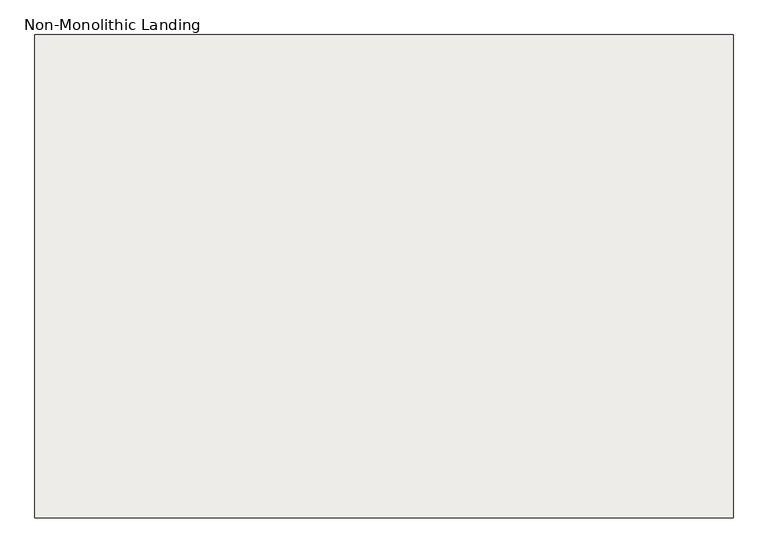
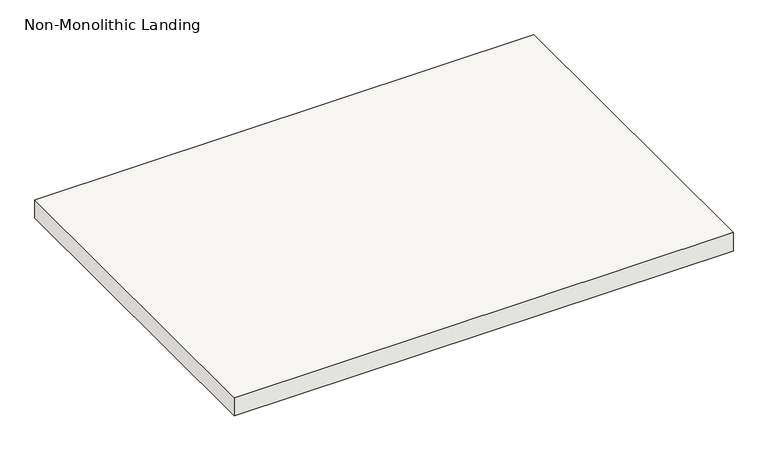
"""IFC4 building model written with IfcOpenShell, lengths in millimetres: slab geometry, Non-Monolithic Landing."""

import ifcopenshell
import ifcopenshell.guid

model = None  # the IFC model being written
_history = None  # IfcOwnerHistory: only IFC2X3 demands one
_inside = {}  # id of a spatial element -> (the spatial element, [elements in it])
_under = {}  # id of a project, library or spatial element -> (it, [spatial elements below it])
_declared = {}  # id of a project -> (the project, [libraries it declares])
_typed = {}  # id of a type object -> (the type object, [elements of that type])
_made_of = {}  # id of a material, layer set ... -> (it, [elements and type objects made of it])


def new_model(schema):
    """Start an empty IFC model of exactly this schema.

    Asked for "IFC4X3", IfcOpenShell would pick the latest addendum, in which some entities
    have other attributes; the version numbers below select the first issue.
    IFC2X3 requires an IfcOwnerHistory on every rooted entity: one is made here for all.
    """
    global model, _history
    if schema == "IFC4X3":
        model = ifcopenshell.file(schema_version=(4, 3, 0, 0))
    else:
        model = ifcopenshell.file(schema=schema)
    _inside.clear()
    _under.clear()
    _declared.clear()
    _typed.clear()
    _made_of.clear()
    _history = None
    if model.schema == "IFC2X3":
        org = make("IfcOrganization", Name="unknown")
        user = make(
            "IfcPersonAndOrganization",
            ThePerson=make("IfcPerson", FamilyName="unknown"),
            TheOrganization=org,
        )
        app = make(
            "IfcApplication",
            ApplicationDeveloper=org,
            Version="unknown",
            ApplicationFullName="unknown",
            ApplicationIdentifier="unknown",
        )
        _history = make(
            "IfcOwnerHistory",
            OwningUser=user,
            OwningApplication=app,
            ChangeAction="ADDED",
            CreationDate=0,
        )
    return model


def make(cls, **values):
    """One entity of the class cls with the attributes given. An attribute that is None is left unset."""
    return model.create_entity(
        cls, **{name: value for name, value in values.items() if value is not None}
    )


def rooted(cls, **values):
    """An entity with a GlobalId (a new one), such as an element, a storey or a relation."""
    return make(cls, GlobalId=ifcopenshell.guid.new(), OwnerHistory=_history, **values)


def si_unit(unit_type, name, prefix=None):
    """IfcSIUnit, for example si_unit("LENGTHUNIT", "METRE", prefix="MILLI")."""
    return make("IfcSIUnit", UnitType=unit_type, Prefix=prefix, Name=name)


def assignment(units):
    """IfcUnitAssignment: the units of a project."""
    return None if units is None else make("IfcUnitAssignment", Units=units)


def point(xyz):
    """IfcCartesianPoint."""
    return None if xyz is None else make("IfcCartesianPoint", Coordinates=xyz)


def direction(xyz):
    """IfcDirection."""
    return None if xyz is None else make("IfcDirection", DirectionRatios=xyz)


def frame(location, z_axis=None, x_axis=None):
    """IfcAxis2Placement3D, a coordinate frame: its origin and axes. An axis left out is left unset."""
    return make(
        "IfcAxis2Placement3D",
        Location=point(location),
        Axis=direction(z_axis),
        RefDirection=direction(x_axis),
    )


def origin():
    """The frame at (0, 0, 0) with its axes left unset."""
    return frame((0.0, 0.0, 0.0))


def place(relative_to, where):
    """IfcLocalPlacement: puts the frame where relative to a parent placement (None: the world)."""
    return make(
        "IfcLocalPlacement", PlacementRelTo=relative_to, RelativePlacement=where
    )


def context(
    kind, dimensions, precision=None, world=None, true_north=None, identifier=None
):
    """IfcGeometricRepresentationContext, for example the 3D "Model" context."""
    return make(
        "IfcGeometricRepresentationContext",
        ContextIdentifier=identifier,
        ContextType=kind,
        CoordinateSpaceDimension=dimensions,
        Precision=precision,
        WorldCoordinateSystem=world,
        TrueNorth=true_north,
    )


def project(units=None, contexts=None):
    """IfcProject with its units and contexts."""
    return rooted(
        "IfcProject",
        Name="project",
        RepresentationContexts=contexts,
        UnitsInContext=assignment(units),
    )


def spatial(cls, under=None, at=None, **own):
    """A site, building, storey or space (cls), placed at a placement, below another one or the project."""
    s = rooted(cls, ObjectPlacement=at, **own)
    if under is not None:
        _under.setdefault(under.id(), (under, []))[1].append(s)
    return s


def polyline(points):
    """IfcPolyline through the points."""
    return make("IfcPolyline", Points=[point(p) for p in points])


def outline(outer, holes=None, kind="AREA"):
    """IfcArbitraryClosedProfileDef: a profile drawn as a closed curve; with holes, ...WithVoids."""
    if holes is None:
        return make("IfcArbitraryClosedProfileDef", ProfileType=kind, OuterCurve=outer)
    return make(
        "IfcArbitraryProfileDefWithVoids",
        ProfileType=kind,
        OuterCurve=outer,
        InnerCurves=holes,
    )


def extrude(swept, where, along, depth):
    """IfcExtrudedAreaSolid: the profile swept, set in the frame where, extruded along a direction by depth."""
    return make(
        "IfcExtrudedAreaSolid",
        SweptArea=swept,
        Position=where,
        ExtrudedDirection=direction(along),
        Depth=depth,
    )


def shape(context_of_items, identifier, shape_type, items):
    """IfcShapeRepresentation: the items that make up one representation, for example the "Body"."""
    return make(
        "IfcShapeRepresentation",
        ContextOfItems=context_of_items,
        RepresentationIdentifier=identifier,
        RepresentationType=shape_type,
        Items=items,
    )


def source(mapping_origin, context_of_items, identifier, shape_type, items):
    """IfcRepresentationMap: a shape defined once, which mapped items show again and again."""
    return make(
        "IfcRepresentationMap",
        MappingOrigin=mapping_origin,
        MappedRepresentation=shape(context_of_items, identifier, shape_type, items),
    )


def transform(
    local_origin,
    x_axis=None,
    y_axis=None,
    z_axis=None,
    scale=None,
    scale2=None,
    scale3=None,
    uniform=True,
):
    """IfcCartesianTransformationOperator3D, or its non-uniform kind. x_axis, y_axis, z_axis: its Axis1, 2, 3."""
    if uniform:
        return make(
            "IfcCartesianTransformationOperator3D",
            Axis1=direction(x_axis),
            Axis2=direction(y_axis),
            LocalOrigin=point(local_origin),
            Scale=scale,
            Axis3=direction(z_axis),
        )
    return make(
        "IfcCartesianTransformationOperator3DnonUniform",
        Axis1=direction(x_axis),
        Axis2=direction(y_axis),
        LocalOrigin=point(local_origin),
        Scale=scale,
        Axis3=direction(z_axis),
        Scale2=scale2,
        Scale3=scale3,
    )


def mapped(mapping_source, mapping_target):
    """IfcMappedItem: shows the shape of a source again, moved by a transform."""
    return make(
        "IfcMappedItem", MappingSource=mapping_source, MappingTarget=mapping_target
    )


def made_of(thing, what):
    """Note that an element or type object is made of a material, layer set ...; save() writes the relation."""
    if what is not None:
        _made_of.setdefault(what.id(), (what, []))[1].append(thing)
    return thing


def element(
    cls,
    number,
    at=None,
    inside=None,
    cuts=None,
    type_object=None,
    material=None,
    context=None,
    identifier="Body",
    shape_type=None,
    held_by="IfcProductDefinitionShape",
    body=None,
    shapes=None,
    **own,
):
    """One element of the class cls, such as IfcWall. Its Tag is "e" and its number.

    at: its placement. inside: the storey or other place that contains it. cuts: it is an
    opening in that element (IfcRelVoidsElement). A single representation is given by context,
    identifier, shape_type and body (its items); several are given by shapes. held_by: the class
    of the entity that holds the representations. save() writes the other relations.
    """
    e = rooted(cls, Tag="e%d" % number, ObjectPlacement=at, **own)
    if body is not None:
        shapes = [shape(context, identifier, shape_type, body)]
    if shapes is not None:
        e.Representation = make(held_by, Representations=shapes)
    if inside is not None:
        _inside.setdefault(inside.id(), (inside, []))[1].append(e)
    if cuts is not None:
        rooted(
            "IfcRelVoidsElement", RelatingBuildingElement=cuts, RelatedOpeningElement=e
        )
    if type_object is not None:
        _typed.setdefault(type_object.id(), (type_object, []))[1].append(e)
    return made_of(e, material)


def aggregate(whole, parts):
    """IfcRelAggregates: a whole, such as a stair, and the parts it consists of."""
    return rooted("IfcRelAggregates", RelatingObject=whole, RelatedObjects=parts)


def save(model, path):
    """Write the relations noted so far, then the file.

    IfcRelAggregates (storeys below a building ...), IfcRelContainedInSpatialStructure (elements
    in a storey), IfcRelDefinesByType, IfcRelAssociatesMaterial and IfcRelDeclares: one each for
    every whole, place, type object, material and project.
    """
    for whole, parts in _under.values():
        aggregate(whole, parts)
    for where, things in _inside.values():
        rooted(
            "IfcRelContainedInSpatialStructure",
            RelatedElements=things,
            RelatingStructure=where,
        )
    for kind, things in _typed.values():
        rooted("IfcRelDefinesByType", RelatedObjects=things, RelatingType=kind)
    for what, things in _made_of.values():
        rooted("IfcRelAssociatesMaterial", RelatedObjects=things, RelatingMaterial=what)
    for by, libraries in _declared.values():
        rooted("IfcRelDeclares", RelatingContext=by, RelatedDefinitions=libraries)
    model.write(path)


def non_monolithic_landing_f2cff6cf(model_context):
    return source(origin(), model_context, "Body", "SweptSolid", [
        extrude(outline(polyline([(112302.1786089, -17954.2990002), (113622.9786089, -17954.2990002), (113622.9786089, -18868.6990002), (112302.1786089, -18868.6990002), (112302.1786089, -17954.2990002)])), frame((0.0, 0.0, 2126.3428571), z_axis=(0.0, 0.0, 1.0), x_axis=(1.0, 0.0, 0.0)), (0.0, 0.0, 1.0), 50.8),
    ])


if __name__ == "__main__":
    model = new_model("IFC4")
    model_context = context("Model", 3, world=origin())
    ifc_project = project(units=[si_unit("LENGTHUNIT", "METRE", prefix="MILLI")], contexts=[model_context])
    site = spatial("IfcSite", under=ifc_project)
    building = spatial("IfcBuilding", under=site)
    placement = place(None, origin())
    non_monolithic_landing_shape = non_monolithic_landing_f2cff6cf(model_context)
    element("IfcSlab", 1, ObjectType="Non-Monolithic Landing", at=placement, inside=building, context=model_context, shape_type="MappedRepresentation", body=[
        mapped(non_monolithic_landing_shape, transform((0.0, 0.0, 0.0), x_axis=(1.0, 0.0, 0.0), y_axis=(0.0, 1.0, 0.0), z_axis=(0.0, 0.0, 1.0))),
    ])
    save(model, "model.ifc")
